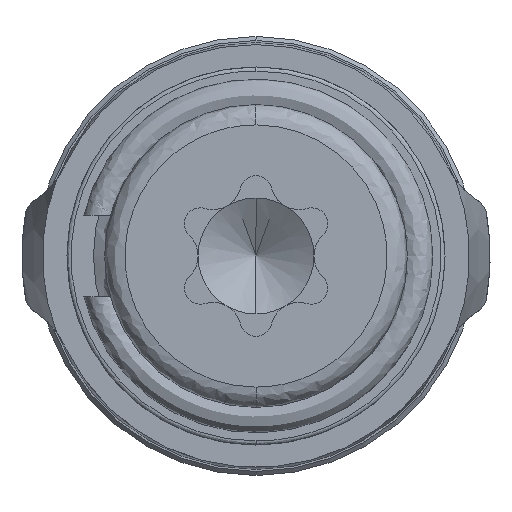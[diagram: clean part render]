
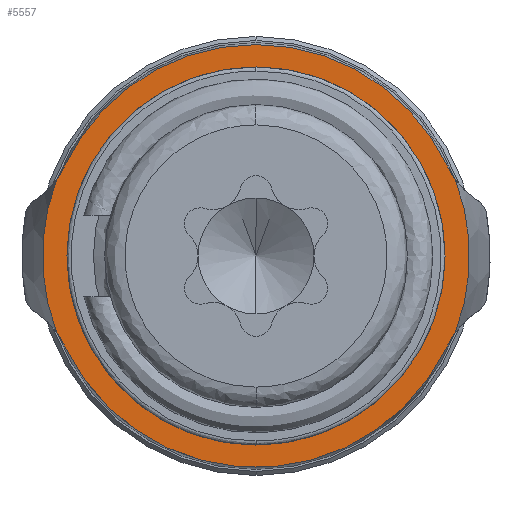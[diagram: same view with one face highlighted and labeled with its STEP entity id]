
A CAD part, front view. The second image highlights one B-rep face of the part: STEP entity #5557.
In plain terms, the highlighted planar face has unit normal (0, -1, 0).
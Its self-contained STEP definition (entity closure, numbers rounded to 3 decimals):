
#5 = CIRCLE ( 'NONE', #3630, 2. ) ;
#90 = AXIS2_PLACEMENT_3D ( 'NONE', #4179, #616, #3611 ) ;
#171 = EDGE_LOOP ( 'NONE', ( #4892, #5508, #4306, #4371, #5620, #2919, #4928, #1628, #945 ) ) ;
#247 = CIRCLE ( 'NONE', #4466, 2. ) ;
#522 = CARTESIAN_POINT ( 'NONE',  ( 0., 10.05, 0. ) ) ;
#556 = CIRCLE ( 'NONE', #3021, 5.252 ) ;
#616 = DIRECTION ( 'NONE',  ( 0., 1., 0. ) ) ;
#655 = CARTESIAN_POINT ( 'NONE',  ( 4.705, 10.05, 2.215 ) ) ;
#801 = VERTEX_POINT ( 'NONE', #3205 ) ;
#834 = DIRECTION ( 'NONE',  ( 0., 1., 0. ) ) ;
#909 = ORIENTED_EDGE ( 'NONE', *, *, #1857, .F. ) ;
#945 = ORIENTED_EDGE ( 'NONE', *, *, #1758, .F. ) ;
#1253 = DIRECTION ( 'NONE',  ( 0., -1., 0. ) ) ;
#1261 = CARTESIAN_POINT ( 'NONE',  ( -4.903, 10.05, -1.882 ) ) ;
#1279 = EDGE_CURVE ( 'NONE', #5010, #1879, #5427, .T. ) ;
#1323 = DIRECTION ( 'NONE',  ( 0., 0., -1. ) ) ;
#1331 = AXIS2_PLACEMENT_3D ( 'NONE', #4210, #4234, #4240 ) ;
#1612 = CARTESIAN_POINT ( 'NONE',  ( 0., 10.05, 5.2 ) ) ;
#1614 = EDGE_CURVE ( 'NONE', #4553, #801, #3106, .T. ) ;
#1627 = EDGE_CURVE ( 'NONE', #5010, #2281, #247, .T. ) ;
#1628 = ORIENTED_EDGE ( 'NONE', *, *, #1682, .T. ) ;
#1638 = EDGE_CURVE ( 'NONE', #3375, #2281, #556, .T. ) ;
#1649 = CARTESIAN_POINT ( 'NONE',  ( 4.903, 10.05, 1.882 ) ) ;
#1682 = EDGE_CURVE ( 'NONE', #3960, #4071, #5, .T. ) ;
#1689 = DIRECTION ( 'NONE',  ( 0., 1., 0. ) ) ;
#1734 = CARTESIAN_POINT ( 'NONE',  ( 0., 10.05, 0. ) ) ;
#1757 = EDGE_CURVE ( 'NONE', #2790, #4585, #3742, .T. ) ;
#1758 = EDGE_CURVE ( 'NONE', #1879, #4071, #4920, .T. ) ;
#1784 = DIRECTION ( 'NONE',  ( 0., 1., 0. ) ) ;
#1817 = CARTESIAN_POINT ( 'NONE',  ( -4.705, 10.05, 2.215 ) ) ;
#1857 = EDGE_CURVE ( 'NONE', #4585, #2790, #2968, .T. ) ;
#1879 = VERTEX_POINT ( 'NONE', #1612 ) ;
#1920 = DIRECTION ( 'NONE',  ( 0., -1., 0. ) ) ;
#1975 = DIRECTION ( 'NONE',  ( 0., 0., -1. ) ) ;
#2052 = DIRECTION ( 'NONE',  ( 0., -1., 0. ) ) ;
#2078 = EDGE_CURVE ( 'NONE', #3375, #801, #5457, .T. ) ;
#2087 = CARTESIAN_POINT ( 'NONE',  ( 0., 10.05, 0. ) ) ;
#2106 = PLANE ( 'NONE',  #4093 ) ;
#2281 = VERTEX_POINT ( 'NONE', #5419 ) ;
#2455 = DIRECTION ( 'NONE',  ( 0., 0., 1. ) ) ;
#2492 = CARTESIAN_POINT ( 'NONE',  ( 0., 10.05, 0. ) ) ;
#2790 = VERTEX_POINT ( 'NONE', #5146 ) ;
#2810 = CARTESIAN_POINT ( 'NONE',  ( 0., 10.05, 0. ) ) ;
#2900 = DIRECTION ( 'NONE',  ( 0., 1., 0. ) ) ;
#2919 = ORIENTED_EDGE ( 'NONE', *, *, #3730, .T. ) ;
#2968 = CIRCLE ( 'NONE', #5201, 4.65 ) ;
#3017 = DIRECTION ( 'NONE',  ( 0., 1., 0. ) ) ;
#3021 = AXIS2_PLACEMENT_3D ( 'NONE', #2492, #2900, #5583 ) ;
#3082 = FACE_OUTER_BOUND ( 'NONE', #171, .T. ) ;
#3106 = CIRCLE ( 'NONE', #3144, 5.2 ) ;
#3129 = DIRECTION ( 'NONE',  ( 0., 0., 1. ) ) ;
#3144 = AXIS2_PLACEMENT_3D ( 'NONE', #1734, #1784, #2455 ) ;
#3157 = DIRECTION ( 'NONE',  ( 0., 0., 1. ) ) ;
#3171 = DIRECTION ( 'NONE',  ( 0., 1., 0. ) ) ;
#3193 = CARTESIAN_POINT ( 'NONE',  ( 6.514, 10.05, -3.067 ) ) ;
#3205 = CARTESIAN_POINT ( 'NONE',  ( -4.705, 10.05, -2.215 ) ) ;
#3224 = CIRCLE ( 'NONE', #4992, 2. ) ;
#3256 = CARTESIAN_POINT ( 'NONE',  ( -6.514, 10.05, 3.067 ) ) ;
#3375 = VERTEX_POINT ( 'NONE', #1261 ) ;
#3381 = DIRECTION ( 'NONE',  ( 0., 0., 1. ) ) ;
#3429 = EDGE_LOOP ( 'NONE', ( #909, #4131 ) ) ;
#3439 = DIRECTION ( 'NONE',  ( 0., 0., -1. ) ) ;
#3483 = CARTESIAN_POINT ( 'NONE',  ( 4.903, 10.05, -1.882 ) ) ;
#3611 = DIRECTION ( 'NONE',  ( 0., 0., 1. ) ) ;
#3615 = DIRECTION ( 'NONE',  ( 0., 0., 1. ) ) ;
#3630 = AXIS2_PLACEMENT_3D ( 'NONE', #4357, #834, #3381 ) ;
#3730 = EDGE_CURVE ( 'NONE', #4553, #4793, #3224, .T. ) ;
#3742 = CIRCLE ( 'NONE', #4408, 4.65 ) ;
#3960 = VERTEX_POINT ( 'NONE', #1649 ) ;
#4026 = CARTESIAN_POINT ( 'NONE',  ( 0., 10.05, 0. ) ) ;
#4071 = VERTEX_POINT ( 'NONE', #655 ) ;
#4093 = AXIS2_PLACEMENT_3D ( 'NONE', #2087, #2052, #1975 ) ;
#4131 = ORIENTED_EDGE ( 'NONE', *, *, #1757, .F. ) ;
#4179 = CARTESIAN_POINT ( 'NONE',  ( 0., 10.05, 0. ) ) ;
#4210 = CARTESIAN_POINT ( 'NONE',  ( -6.514, 10.05, -3.067 ) ) ;
#4234 = DIRECTION ( 'NONE',  ( 0., 1., 0. ) ) ;
#4240 = DIRECTION ( 'NONE',  ( 0., 0., 1. ) ) ;
#4306 = ORIENTED_EDGE ( 'NONE', *, *, #1638, .F. ) ;
#4357 = CARTESIAN_POINT ( 'NONE',  ( 6.514, 10.05, 3.067 ) ) ;
#4371 = ORIENTED_EDGE ( 'NONE', *, *, #2078, .T. ) ;
#4408 = AXIS2_PLACEMENT_3D ( 'NONE', #2810, #1920, #1323 ) ;
#4466 = AXIS2_PLACEMENT_3D ( 'NONE', #3256, #1689, #3129 ) ;
#4553 = VERTEX_POINT ( 'NONE', #5172 ) ;
#4579 = EDGE_CURVE ( 'NONE', #4793, #3960, #5249, .T. ) ;
#4585 = VERTEX_POINT ( 'NONE', #4927 ) ;
#4592 = AXIS2_PLACEMENT_3D ( 'NONE', #4828, #4812, #4780 ) ;
#4780 = DIRECTION ( 'NONE',  ( 0., 0., 1. ) ) ;
#4793 = VERTEX_POINT ( 'NONE', #3483 ) ;
#4812 = DIRECTION ( 'NONE',  ( 0., -1., 0. ) ) ;
#4819 = FACE_BOUND ( 'NONE', #3429, .T. ) ;
#4828 = CARTESIAN_POINT ( 'NONE',  ( 0., 10.05, 0. ) ) ;
#4892 = ORIENTED_EDGE ( 'NONE', *, *, #1279, .F. ) ;
#4920 = CIRCLE ( 'NONE', #5265, 5.2 ) ;
#4927 = CARTESIAN_POINT ( 'NONE',  ( 0., 10.05, -4.65 ) ) ;
#4928 = ORIENTED_EDGE ( 'NONE', *, *, #4579, .T. ) ;
#4992 = AXIS2_PLACEMENT_3D ( 'NONE', #3193, #3171, #3157 ) ;
#5010 = VERTEX_POINT ( 'NONE', #1817 ) ;
#5146 = CARTESIAN_POINT ( 'NONE',  ( 0., 10.05, 4.65 ) ) ;
#5172 = CARTESIAN_POINT ( 'NONE',  ( 4.705, 10.05, -2.215 ) ) ;
#5201 = AXIS2_PLACEMENT_3D ( 'NONE', #522, #1253, #3439 ) ;
#5249 = CIRCLE ( 'NONE', #4592, 5.252 ) ;
#5265 = AXIS2_PLACEMENT_3D ( 'NONE', #4026, #3017, #3615 ) ;
#5419 = CARTESIAN_POINT ( 'NONE',  ( -4.903, 10.05, 1.882 ) ) ;
#5427 = CIRCLE ( 'NONE', #90, 5.2 ) ;
#5457 = CIRCLE ( 'NONE', #1331, 2. ) ;
#5508 = ORIENTED_EDGE ( 'NONE', *, *, #1627, .T. ) ;
#5557 = ADVANCED_FACE ( 'NONE', ( #3082, #4819 ), #2106, .T. ) ;
#5583 = DIRECTION ( 'NONE',  ( 0., 0., 1. ) ) ;
#5620 = ORIENTED_EDGE ( 'NONE', *, *, #1614, .F. ) ;
